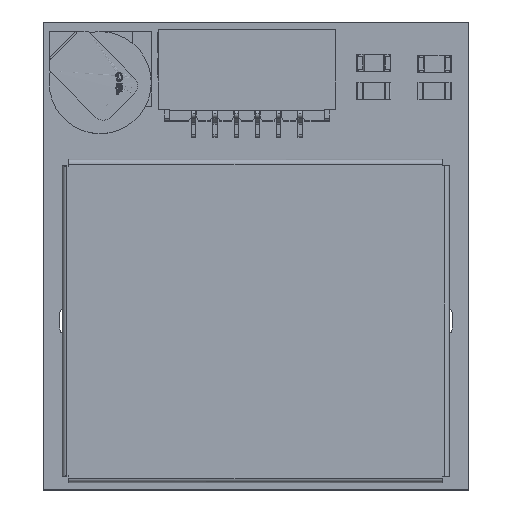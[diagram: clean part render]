
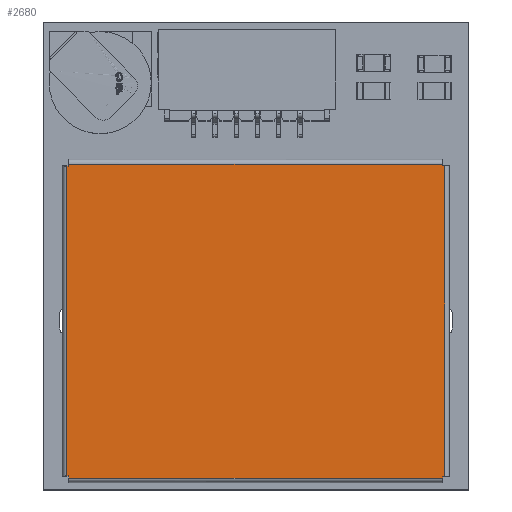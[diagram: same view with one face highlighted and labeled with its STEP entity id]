
A CAD part, top view. The second image highlights one B-rep face of the part: STEP entity #2680.
In plain terms, the highlighted planar face has unit normal (0, 0, 1).
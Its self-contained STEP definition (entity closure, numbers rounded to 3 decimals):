
#2680 = ADVANCED_FACE('',(#2681),#2779,.T.);
#2681 = FACE_BOUND('',#2682,.T.);
#2682 = EDGE_LOOP('',(#2683,#2693,#2701,#2709,#2717,#2725,#2733,#2741,
    #2749,#2757,#2765,#2773));
#2683 = ORIENTED_EDGE('',*,*,#2684,.T.);
#2684 = EDGE_CURVE('',#2685,#2687,#2689,.T.);
#2685 = VERTEX_POINT('',#2686);
#2686 = CARTESIAN_POINT('',(-7.28,-8.8,0.));
#2687 = VERTEX_POINT('',#2688);
#2688 = CARTESIAN_POINT('',(-7.28,-8.88,0.));
#2689 = LINE('',#2690,#2691);
#2690 = CARTESIAN_POINT('',(-7.28,8.9,0.));
#2691 = VECTOR('',#2692,1.);
#2692 = DIRECTION('',(0.,-1.,0.));
#2693 = ORIENTED_EDGE('',*,*,#2694,.T.);
#2694 = EDGE_CURVE('',#2687,#2695,#2697,.T.);
#2695 = VERTEX_POINT('',#2696);
#2696 = CARTESIAN_POINT('',(7.28,-8.88,0.));
#2697 = LINE('',#2698,#2699);
#2698 = CARTESIAN_POINT('',(-7.3,-8.88,0.));
#2699 = VECTOR('',#2700,1.);
#2700 = DIRECTION('',(1.,-0.,-0.));
#2701 = ORIENTED_EDGE('',*,*,#2702,.T.);
#2702 = EDGE_CURVE('',#2695,#2703,#2705,.T.);
#2703 = VERTEX_POINT('',#2704);
#2704 = CARTESIAN_POINT('',(7.28,-8.8,0.));
#2705 = LINE('',#2706,#2707);
#2706 = CARTESIAN_POINT('',(7.28,8.9,0.));
#2707 = VECTOR('',#2708,1.);
#2708 = DIRECTION('',(0.,1.,0.));
#2709 = ORIENTED_EDGE('',*,*,#2710,.T.);
#2710 = EDGE_CURVE('',#2703,#2711,#2713,.T.);
#2711 = VERTEX_POINT('',#2712);
#2712 = CARTESIAN_POINT('',(7.38,-8.8,0.));
#2713 = LINE('',#2714,#2715);
#2714 = CARTESIAN_POINT('',(7.4,-8.8,0.));
#2715 = VECTOR('',#2716,1.);
#2716 = DIRECTION('',(1.,0.,-0.));
#2717 = ORIENTED_EDGE('',*,*,#2718,.T.);
#2718 = EDGE_CURVE('',#2711,#2719,#2721,.T.);
#2719 = VERTEX_POINT('',#2720);
#2720 = CARTESIAN_POINT('',(7.38,8.78,0.));
#2721 = LINE('',#2722,#2723);
#2722 = CARTESIAN_POINT('',(7.38,-8.8,0.));
#2723 = VECTOR('',#2724,1.);
#2724 = DIRECTION('',(0.,1.,0.));
#2725 = ORIENTED_EDGE('',*,*,#2726,.T.);
#2726 = EDGE_CURVE('',#2719,#2727,#2729,.T.);
#2727 = VERTEX_POINT('',#2728);
#2728 = CARTESIAN_POINT('',(7.3,8.78,0.));
#2729 = LINE('',#2730,#2731);
#2730 = CARTESIAN_POINT('',(7.4,8.78,0.));
#2731 = VECTOR('',#2732,1.);
#2732 = DIRECTION('',(-1.,0.,0.));
#2733 = ORIENTED_EDGE('',*,*,#2734,.T.);
#2734 = EDGE_CURVE('',#2727,#2735,#2737,.T.);
#2735 = VERTEX_POINT('',#2736);
#2736 = CARTESIAN_POINT('',(7.3,8.88,0.));
#2737 = LINE('',#2738,#2739);
#2738 = CARTESIAN_POINT('',(7.3,8.9,0.));
#2739 = VECTOR('',#2740,1.);
#2740 = DIRECTION('',(0.,1.,0.));
#2741 = ORIENTED_EDGE('',*,*,#2742,.T.);
#2742 = EDGE_CURVE('',#2735,#2743,#2745,.T.);
#2743 = VERTEX_POINT('',#2744);
#2744 = CARTESIAN_POINT('',(-7.3,8.88,0.));
#2745 = LINE('',#2746,#2747);
#2746 = CARTESIAN_POINT('',(7.3,8.88,0.));
#2747 = VECTOR('',#2748,1.);
#2748 = DIRECTION('',(-1.,-0.,-0.));
#2749 = ORIENTED_EDGE('',*,*,#2750,.T.);
#2750 = EDGE_CURVE('',#2743,#2751,#2753,.T.);
#2751 = VERTEX_POINT('',#2752);
#2752 = CARTESIAN_POINT('',(-7.3,8.78,0.));
#2753 = LINE('',#2754,#2755);
#2754 = CARTESIAN_POINT('',(-7.3,8.9,0.));
#2755 = VECTOR('',#2756,1.);
#2756 = DIRECTION('',(0.,-1.,0.));
#2757 = ORIENTED_EDGE('',*,*,#2758,.T.);
#2758 = EDGE_CURVE('',#2751,#2759,#2761,.T.);
#2759 = VERTEX_POINT('',#2760);
#2760 = CARTESIAN_POINT('',(-7.38,8.78,0.));
#2761 = LINE('',#2762,#2763);
#2762 = CARTESIAN_POINT('',(7.4,8.78,0.));
#2763 = VECTOR('',#2764,1.);
#2764 = DIRECTION('',(-1.,0.,0.));
#2765 = ORIENTED_EDGE('',*,*,#2766,.T.);
#2766 = EDGE_CURVE('',#2759,#2767,#2769,.T.);
#2767 = VERTEX_POINT('',#2768);
#2768 = CARTESIAN_POINT('',(-7.38,-8.8,0.));
#2769 = LINE('',#2770,#2771);
#2770 = CARTESIAN_POINT('',(-7.38,8.8,0.));
#2771 = VECTOR('',#2772,1.);
#2772 = DIRECTION('',(0.,-1.,0.));
#2773 = ORIENTED_EDGE('',*,*,#2774,.T.);
#2774 = EDGE_CURVE('',#2767,#2685,#2775,.T.);
#2775 = LINE('',#2776,#2777);
#2776 = CARTESIAN_POINT('',(7.4,-8.8,0.));
#2777 = VECTOR('',#2778,1.);
#2778 = DIRECTION('',(1.,0.,-0.));
#2779 = PLANE('',#2780);
#2780 = AXIS2_PLACEMENT_3D('',#2781,#2782,#2783);
#2781 = CARTESIAN_POINT('',(7.4,8.9,0.));
#2782 = DIRECTION('',(0.,0.,1.));
#2783 = DIRECTION('',(1.,0.,-0.));
